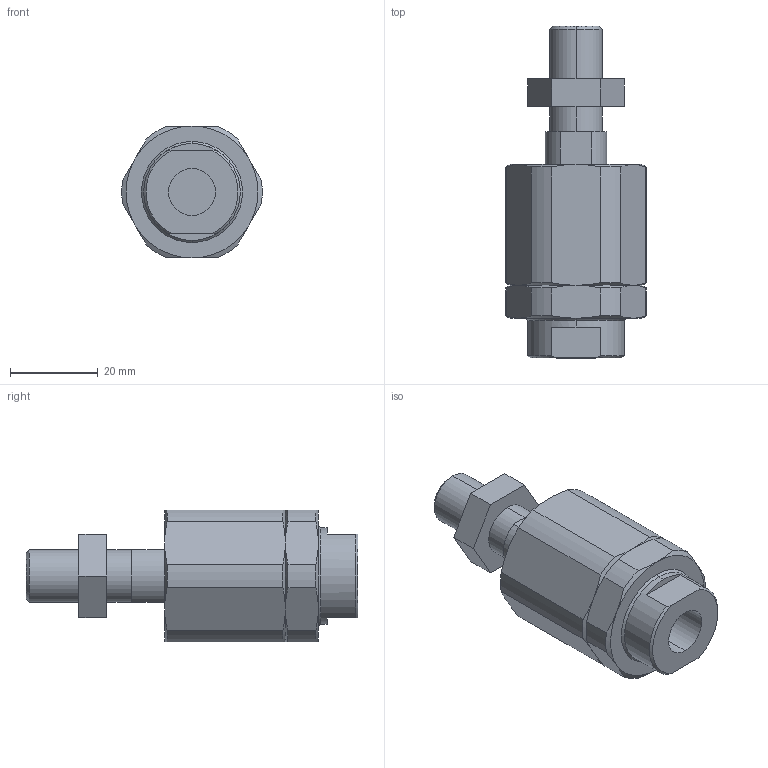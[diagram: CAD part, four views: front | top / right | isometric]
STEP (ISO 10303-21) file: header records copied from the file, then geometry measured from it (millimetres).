
FILE_DESCRIPTION (( 'STEP AP214' ), '1' );
FILE_NAME ('26_022_0.STEP', '2017-01-11T16:47:10', ( '' ), ( '' ), 'SwSTEP 2.0', 'SolidWorks 2016', '' );
FILE_SCHEMA (( 'AUTOMOTIVE_DESIGN' ));
Length unit declared in the file: millimetre
Products named in the file (1): 26_022_0
Bounding box: 31.95 x 75.5 x 30 mm (x, y, z)
Volume: 34042.3 mm3; surface area: 7668.4 mm2
Topology: 1 solids, 1 shells, 85 faces, 196 edges, 118 vertices
Faces by surface type: plane 33, cone 30, cylinder 22
Entity records: 2464 total; most frequent: CARTESIAN_POINT 556, ORIENTED_EDGE 392, DIRECTION 388, EDGE_CURVE 196, AXIS2_PLACEMENT_3D 158, VERTEX_POINT 118, EDGE_LOOP 90, FACE_OUTER_BOUND 85
